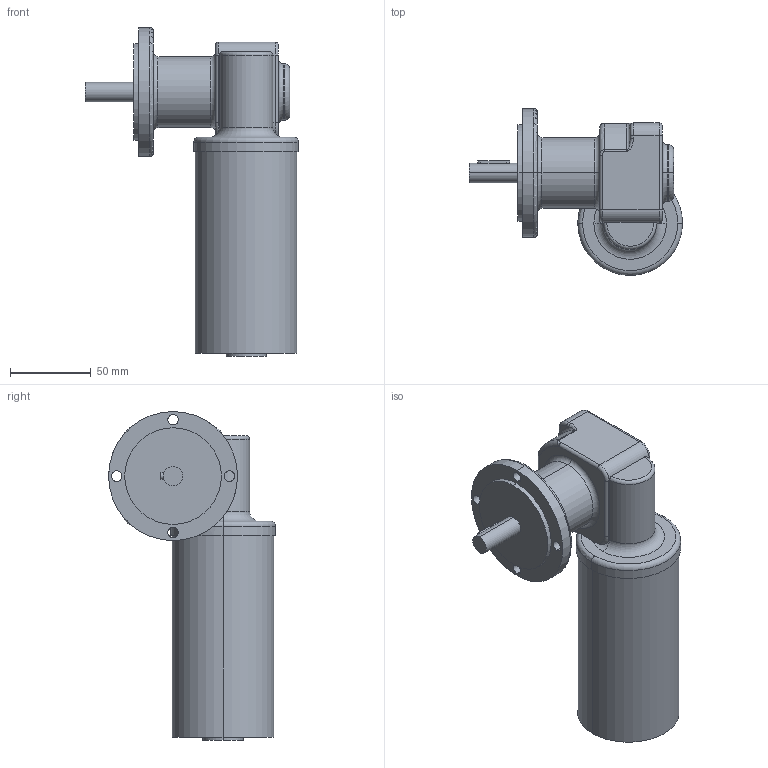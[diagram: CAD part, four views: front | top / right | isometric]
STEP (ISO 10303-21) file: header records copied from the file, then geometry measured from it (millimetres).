
FILE_DESCRIPTION (( 'STEP AP203' ), '1' );
FILE_NAME ('SN5FLGP-93W.STEP', '2012-05-22T11:21:51', ( '' ), ( '' ), 'SwSTEP 2.0', 'SolidWorks 2011', '' );
FILE_SCHEMA (( 'CONFIG_CONTROL_DESIGN' ));
Length unit declared in the file: millimetre
Products named in the file (3): SN5FLGP-93W; 93W-GP; SN5FL
Assembly tree (2 placements, depth 2):
  SN5FLGP-93W
    93W-GP
    SN5FL
Bounding box: 132.2 x 103.5 x 204 mm (x, y, z)
Volume: 705880.7 mm3; surface area: 70422.6 mm2
Topology: 2 solids, 2 shells, 114 faces, 266 edges, 156 vertices
Faces by surface type: cylinder 52, torus 31, plane 23, bspline 8
Entity records: 4367 total; most frequent: CARTESIAN_POINT 1461, DIRECTION 594, ORIENTED_EDGE 526, EDGE_CURVE 263, AXIS2_PLACEMENT_3D 257, VERTEX_POINT 156, CIRCLE 146, EDGE_LOOP 125
